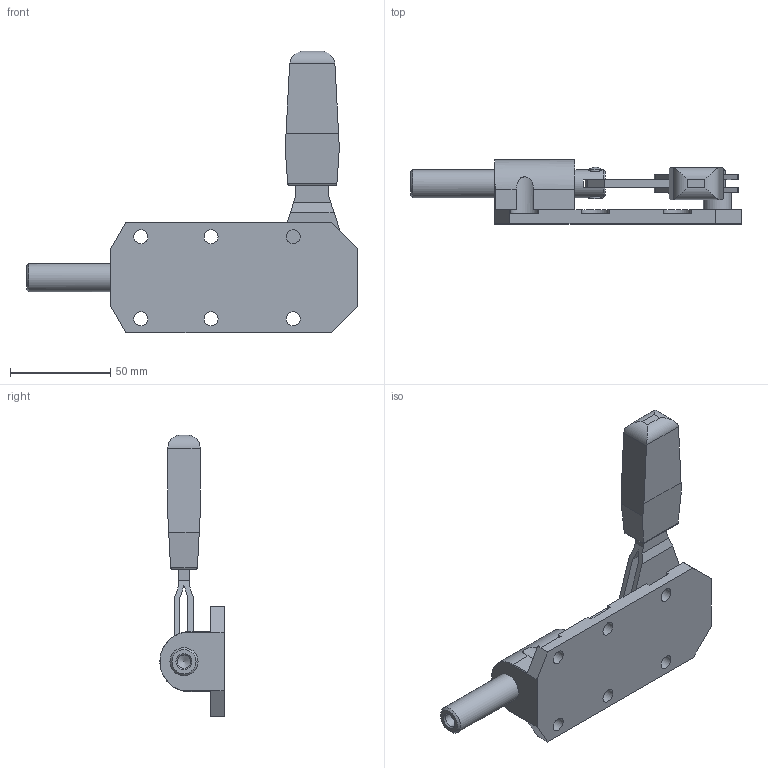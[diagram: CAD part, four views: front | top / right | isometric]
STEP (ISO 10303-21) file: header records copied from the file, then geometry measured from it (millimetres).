
FILE_DESCRIPTION( ( 'STEP AP203' ), '1' );
FILE_NAME( 'C:/Temp/Ganter_Step_05_03_2020/data/2_4/gn_844/gn_844_ass/Plunger clamp GN 844-550-ASS (closed).stp', '2020-03-13T05:55:33', ( 'License CC BY-ND 4.0' ), ( 'CADENAS' ), ' ', 'PARTsolutions', ' ' );
FILE_SCHEMA( ( 'CONFIG_CONTROL_DESIGN' ) );
Length unit declared in the file: millimetre
Products named in the file (5): Plunger clamp GN 844-550-ASS (closed); _GN 844-550-ASS-1; _GN 844-550-ASS0-2; _GN 844-550-ASS0-3; _GN 844-550-ASS0-4
Assembly tree (4 placements, depth 2):
  Plunger clamp GN 844-550-ASS (closed)
    _GN 844-550-ASS-1
    _GN 844-550-ASS0-2
    _GN 844-550-ASS0-3
    _GN 844-550-ASS0-4
Bounding box: 165 x 32 x 140.5 mm (x, y, z)
Volume: 113226.3 mm3; surface area: 40461.1 mm2
Topology: 4 solids, 4 shells, 132 faces, 355 edges, 237 vertices
Faces by surface type: plane 80, cylinder 44, cone 7, bspline 1
Full cylindrical faces by diameter (mm): 3 x1, 6.647 x1, 7 x14, 8 x3, 14 x3
Entity records: 4457 total; most frequent: CARTESIAN_POINT 1026, DIRECTION 672, ORIENTED_EDGE 634, EDGE_CURVE 317, AXIS2_PLACEMENT_3D 231, VERTEX_POINT 229, LINE 210, VECTOR 210
